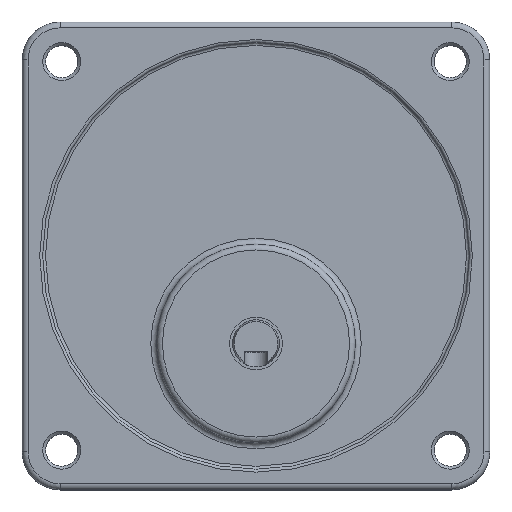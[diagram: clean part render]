
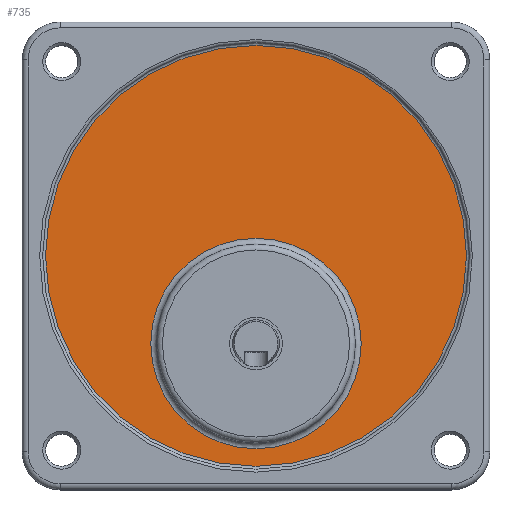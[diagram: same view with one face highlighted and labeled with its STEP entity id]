
A CAD part, top view. The second image highlights one B-rep face of the part: STEP entity #735.
In plain terms, the highlighted planar face has unit normal (0, 0, 1).
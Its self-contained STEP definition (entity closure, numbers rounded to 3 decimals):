
#684=CARTESIAN_POINT('',(58.,25.0,31.0));
#685=VERTEX_POINT('',#684);
#686=CARTESIAN_POINT('',(40.,25.0,31.0));
#687=DIRECTION('',(0.0,0.0,1.0));
#688=DIRECTION('',(-1.0,0.0,0.0));
#689=AXIS2_PLACEMENT_3D('',#686,#687,#688);
#690=CIRCLE('',#689,18.);
#691=EDGE_CURVE('',#685,#685,#690,.T.);
#716=CARTESIAN_POINT('',(40.,40.0,31.0));
#717=DIRECTION('',(0.0,0.0,-1.0));
#718=DIRECTION('',(-1.0,0.0,0.0));
#719=AXIS2_PLACEMENT_3D('',#716,#717,#718);
#720=PLANE('',#719);
#721=CARTESIAN_POINT('',(76.,40.,31.0));
#722=VERTEX_POINT('',#721);
#723=CARTESIAN_POINT('',(40.,40.0,31.0));
#724=DIRECTION('',(0.0,0.0,-1.0));
#725=DIRECTION('',(-1.0,0.0,0.0));
#726=AXIS2_PLACEMENT_3D('',#723,#724,#725);
#727=CIRCLE('',#726,36.);
#728=EDGE_CURVE('',#722,#722,#727,.T.);
#729=ORIENTED_EDGE('',*,*,#728,.F.);
#730=EDGE_LOOP('',(#729));
#731=FACE_OUTER_BOUND('',#730,.T.);
#732=ORIENTED_EDGE('',*,*,#691,.F.);
#733=EDGE_LOOP('',(#732));
#734=FACE_BOUND('',#733,.T.);
#735=ADVANCED_FACE('',(#731,#734),#720,.F.);
